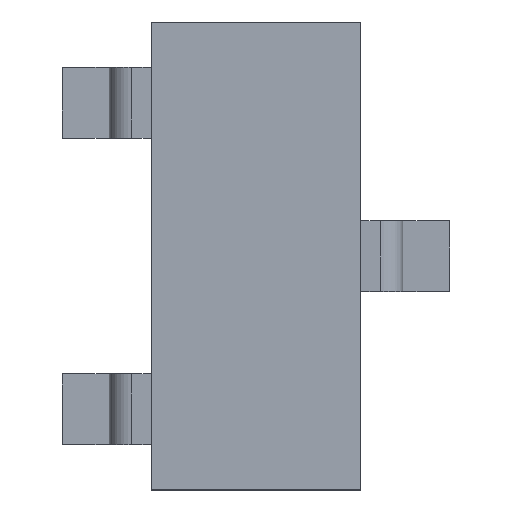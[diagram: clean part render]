
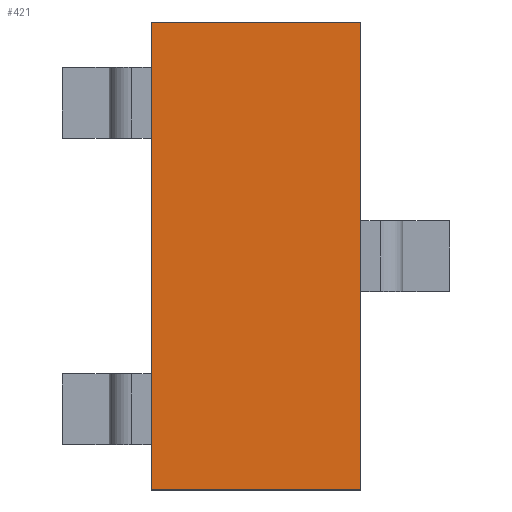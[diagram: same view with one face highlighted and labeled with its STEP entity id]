
A CAD part, top view. The second image highlights one B-rep face of the part: STEP entity #421.
In plain terms, the highlighted planar face has unit normal (0, 0, 1).
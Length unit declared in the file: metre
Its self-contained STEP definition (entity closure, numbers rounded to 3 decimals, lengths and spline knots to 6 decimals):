
#195 = EDGE_CURVE( '', #520, #521, #522, .T. );
#389 = EDGE_CURVE( '', #521, #633, #800, .T. );
#391 = EDGE_CURVE( '', #520, #802, #803, .T. );
#421 = ADVANCED_FACE( '', ( #839 ), #840, .T. );
#451 = EDGE_CURVE( '', #802, #633, #874, .T. );
#520 = VERTEX_POINT( '', #944 );
#521 = VERTEX_POINT( '', #945 );
#522 = LINE( '', #946, #947 );
#633 = VERTEX_POINT( '', #1103 );
#800 = LINE( '', #1358, #1359 );
#802 = VERTEX_POINT( '', #1362 );
#803 = LINE( '', #1363, #1364 );
#839 = FACE_OUTER_BOUND( '', #1417, .T. );
#840 = PLANE( '', #1418 );
#874 = LINE( '', #1475, #1476 );
#944 = CARTESIAN_POINT( '', ( -0.00065, -0.00145, 0.00104 ) );
#945 = CARTESIAN_POINT( '', ( -0.00065, 0.00145, 0.00104 ) );
#946 = CARTESIAN_POINT( '', ( -0.00065, -0.00145, 0.00104 ) );
#947 = VECTOR( '', #1546, 1. );
#1103 = CARTESIAN_POINT( '', ( 0.00065, 0.00145, 0.00104 ) );
#1358 = CARTESIAN_POINT( '', ( -0.00065, 0.00145, 0.00104 ) );
#1359 = VECTOR( '', #1856, 1. );
#1362 = CARTESIAN_POINT( '', ( 0.00065, -0.00145, 0.00104 ) );
#1363 = CARTESIAN_POINT( '', ( -0.00065, -0.00145, 0.00104 ) );
#1364 = VECTOR( '', #1857, 1. );
#1417 = EDGE_LOOP( '', ( #1922, #1923, #1924, #1925 ) );
#1418 = AXIS2_PLACEMENT_3D( '', #1926, #1927, #1928 );
#1475 = CARTESIAN_POINT( '', ( 0.00065, -0.00145, 0.00104 ) );
#1476 = VECTOR( '', #1970, 1. );
#1546 = DIRECTION( '', ( 0., 1., 0. ) );
#1856 = DIRECTION( '', ( 1., 0., 0. ) );
#1857 = DIRECTION( '', ( 1., 0., 0. ) );
#1922 = ORIENTED_EDGE( '', *, *, #195, .F. );
#1923 = ORIENTED_EDGE( '', *, *, #391, .T. );
#1924 = ORIENTED_EDGE( '', *, *, #451, .T. );
#1925 = ORIENTED_EDGE( '', *, *, #389, .F. );
#1926 = CARTESIAN_POINT( '', ( -0.00065, -0.00145, 0.00104 ) );
#1927 = DIRECTION( '', ( 0., 0., 1. ) );
#1928 = DIRECTION( '', ( 1., 0., 0. ) );
#1970 = DIRECTION( '', ( 0., 1., 0. ) );
